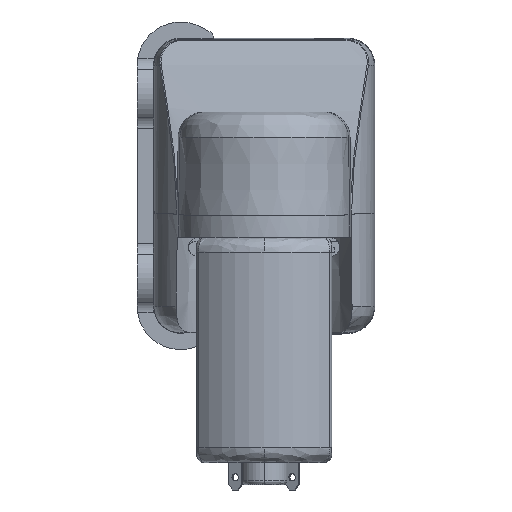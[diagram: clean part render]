
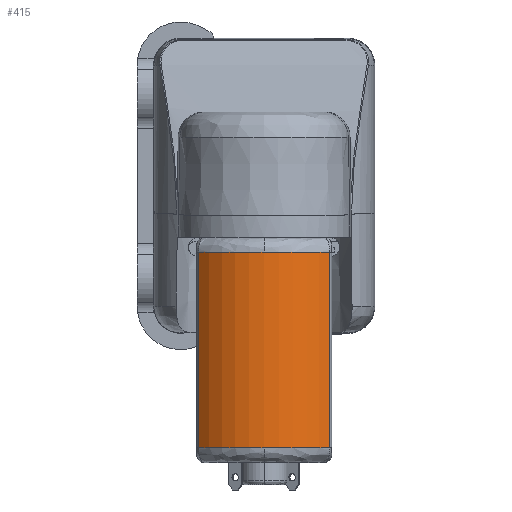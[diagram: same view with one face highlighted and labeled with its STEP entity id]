
A CAD part, front view. The second image highlights one B-rep face of the part: STEP entity #415.
In plain terms, the highlighted cylindrical face has radius 12.1 mm (diameter 24.2 mm), a partial arc.
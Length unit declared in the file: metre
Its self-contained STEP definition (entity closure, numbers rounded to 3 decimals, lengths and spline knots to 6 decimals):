
#415 = ADVANCED_FACE ( 'NONE', ( #7425 ), #4388, .T. ) ;
#731 = CARTESIAN_POINT ( 'NONE',  ( 0., -0.00105, 0.003 ) ) ;
#832 = CARTESIAN_POINT ( 'NONE',  ( 0.008884, -0.009265, 0.003 ) ) ;
#1851 = EDGE_LOOP ( 'NONE', ( #3743, #4349, #20539, #10469, #14841, #17115 ) ) ;
#2506 = DIRECTION ( 'NONE',  ( 0., 1., 0. ) ) ;
#2525 = CARTESIAN_POINT ( 'NONE',  ( -0.008884, -0.009265, 0.0295 ) ) ;
#2982 = AXIS2_PLACEMENT_3D ( 'NONE', #16113, #16061, #16034 ) ;
#3165 = CARTESIAN_POINT ( 'NONE',  ( 0., -0.01315, 0.003 ) ) ;
#3169 = CARTESIAN_POINT ( 'NONE',  ( 0.008884, -0.009265, 0.0295 ) ) ;
#3743 = ORIENTED_EDGE ( 'NONE', *, *, #17909, .T. ) ;
#4349 = ORIENTED_EDGE ( 'NONE', *, *, #21023, .T. ) ;
#4388 = CYLINDRICAL_SURFACE ( 'NONE', #18768, 0.0121 ) ;
#4809 = AXIS2_PLACEMENT_3D ( 'NONE', #731, #13104, #2506 ) ;
#4989 = EDGE_CURVE ( 'NONE', #13759, #15587, #22524, .T. ) ;
#5295 = CIRCLE ( 'NONE', #11659, 0.0121 ) ;
#5392 = DIRECTION ( 'NONE',  ( 0., 0., 1. ) ) ;
#5868 = EDGE_CURVE ( 'NONE', #8585, #13759, #20028, .T. ) ;
#6608 = EDGE_CURVE ( 'NONE', #15587, #22198, #16872, .T. ) ;
#6853 = DIRECTION ( 'NONE',  ( 0., 1., 0. ) ) ;
#6856 = DIRECTION ( 'NONE',  ( 0., 0., -1. ) ) ;
#6912 = CARTESIAN_POINT ( 'NONE',  ( 0., -0.00105, 0.0315 ) ) ;
#7170 = DIRECTION ( 'NONE',  ( 0., 0., 1. ) ) ;
#7405 = VERTEX_POINT ( 'NONE', #3165 ) ;
#7425 = FACE_OUTER_BOUND ( 'NONE', #1851, .T. ) ;
#8425 = VECTOR ( 'NONE', #7170, 1. ) ;
#8585 = VERTEX_POINT ( 'NONE', #3169 ) ;
#8723 = VERTEX_POINT ( 'NONE', #832 ) ;
#10469 = ORIENTED_EDGE ( 'NONE', *, *, #5868, .T. ) ;
#10819 = AXIS2_PLACEMENT_3D ( 'NONE', #13541, #13518, #13422 ) ;
#11659 = AXIS2_PLACEMENT_3D ( 'NONE', #15924, #5392, #17642 ) ;
#13104 = DIRECTION ( 'NONE',  ( 0., 0., 1. ) ) ;
#13422 = DIRECTION ( 'NONE',  ( 0., 1., 0. ) ) ;
#13518 = DIRECTION ( 'NONE',  ( 0., 0., -1. ) ) ;
#13541 = CARTESIAN_POINT ( 'NONE',  ( 0., -0.00105, 0.0295 ) ) ;
#13759 = VERTEX_POINT ( 'NONE', #19307 ) ;
#14841 = ORIENTED_EDGE ( 'NONE', *, *, #4989, .T. ) ;
#15587 = VERTEX_POINT ( 'NONE', #2525 ) ;
#15924 = CARTESIAN_POINT ( 'NONE',  ( 0., -0.00105, 0.003 ) ) ;
#16034 = DIRECTION ( 'NONE',  ( 0., 1., 0. ) ) ;
#16061 = DIRECTION ( 'NONE',  ( 0., 0., -1. ) ) ;
#16113 = CARTESIAN_POINT ( 'NONE',  ( 0., -0.00105, 0.0295 ) ) ;
#16621 = VECTOR ( 'NONE', #20297, 1. ) ;
#16872 = LINE ( 'NONE', #20644, #16621 ) ;
#17115 = ORIENTED_EDGE ( 'NONE', *, *, #6608, .T. ) ;
#17340 = EDGE_CURVE ( 'NONE', #8723, #8585, #22274, .T. ) ;
#17422 = CIRCLE ( 'NONE', #4809, 0.0121 ) ;
#17642 = DIRECTION ( 'NONE',  ( 0., 1., 0. ) ) ;
#17909 = EDGE_CURVE ( 'NONE', #22198, #7405, #17422, .T. ) ;
#18556 = CARTESIAN_POINT ( 'NONE',  ( -0.008884, -0.009265, 0.003 ) ) ;
#18768 = AXIS2_PLACEMENT_3D ( 'NONE', #6912, #6856, #6853 ) ;
#19307 = CARTESIAN_POINT ( 'NONE',  ( 0., -0.01315, 0.0295 ) ) ;
#19368 = CARTESIAN_POINT ( 'NONE',  ( 0.008884, -0.009265, 0.0315 ) ) ;
#20028 = CIRCLE ( 'NONE', #10819, 0.0121 ) ;
#20297 = DIRECTION ( 'NONE',  ( 0., 0., -1. ) ) ;
#20539 = ORIENTED_EDGE ( 'NONE', *, *, #17340, .T. ) ;
#20644 = CARTESIAN_POINT ( 'NONE',  ( -0.008884, -0.009265, 0.0315 ) ) ;
#21023 = EDGE_CURVE ( 'NONE', #7405, #8723, #5295, .T. ) ;
#22198 = VERTEX_POINT ( 'NONE', #18556 ) ;
#22274 = LINE ( 'NONE', #19368, #8425 ) ;
#22524 = CIRCLE ( 'NONE', #2982, 0.0121 ) ;
